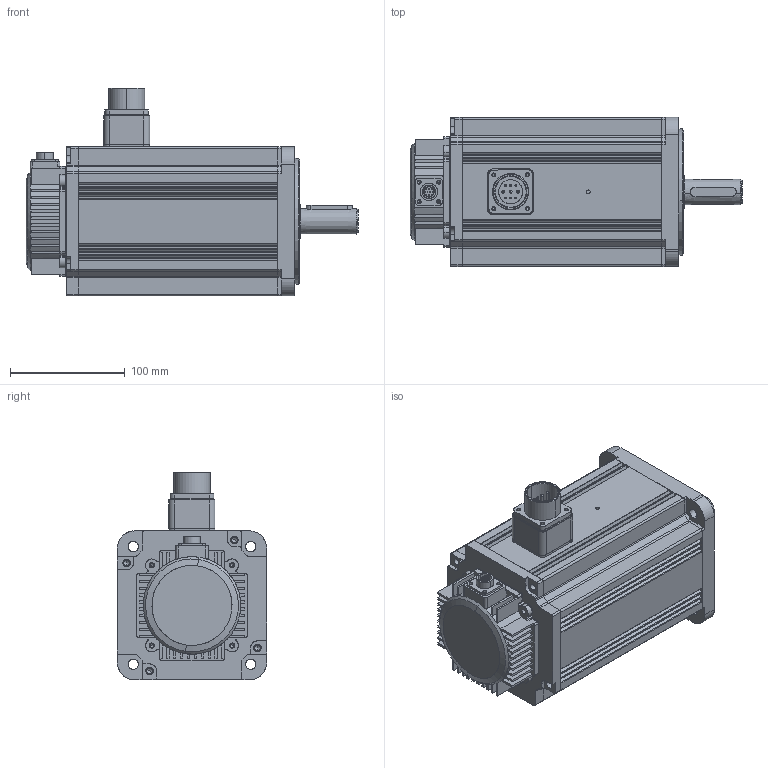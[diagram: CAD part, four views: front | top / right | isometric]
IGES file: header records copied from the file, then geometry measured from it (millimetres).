
Start section: SolidWorks IGES file using analytic representation for surfaces
Global section: file name: Z:\Products\Servo\Servo Motor\EMG-20-B24\UMM-0020EAB-B2 UMM-0020CAB-B2_(02).IGS; native system: SolidWorks 2020; preprocessor: SolidWorks 2020; author: LaorB; date: 211229.181830; units: millimetre
Bounding box: 289.5 x 130 x 181.3 mm (x, y, z)
Surface area: 423410.3 mm2 (no closed solid volume)
Topology: 0 solids, 0 shells, 1472 faces, 22885 edges, 22771 vertices
Faces by surface type: revolution 793, bspline 679
